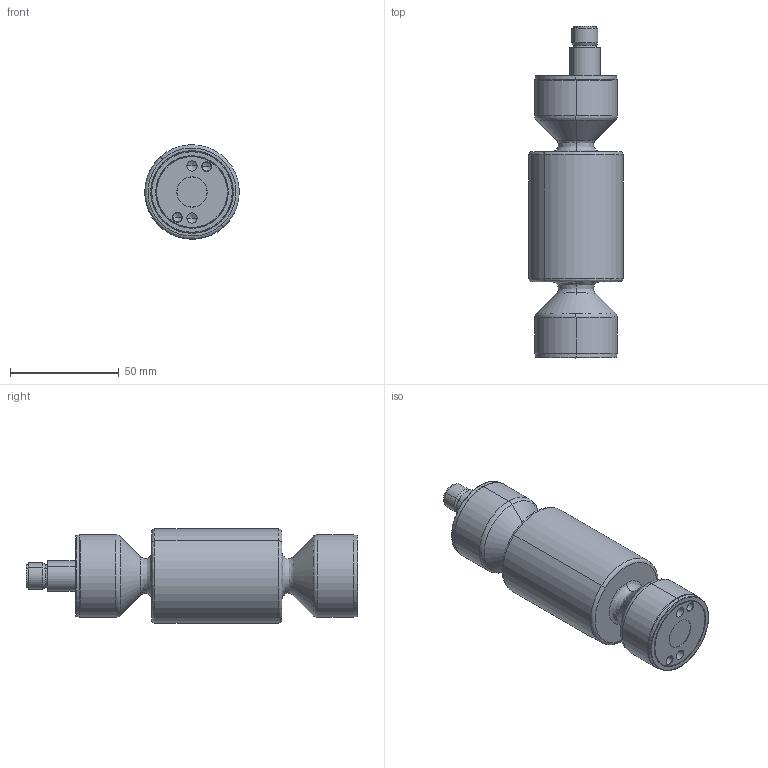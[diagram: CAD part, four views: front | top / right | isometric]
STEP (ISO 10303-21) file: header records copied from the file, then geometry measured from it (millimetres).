
FILE_DESCRIPTION((''),'2;1');
FILE_NAME('PW27AP_SW0001','2020-04-17T',('KURZM'),(''),'CREO PARAMETRIC BY PTC INC, 2018220','CREO PARAMETRIC BY PTC INC, 2018220','');
FILE_SCHEMA(('CONFIG_CONTROL_DESIGN'));
Length unit declared in the file: millimetre
Products named in the file (1): PW27AP_SW0001
Bounding box: 43.47 x 152.8 x 43.47 mm (x, y, z)
Volume: 149878.1 mm3; surface area: 23526.4 mm2
Topology: 1 solids, 2 shells, 181 faces, 419 edges, 236 vertices
Faces by surface type: bspline 181
Entity records: 9534 total; most frequent: CARTESIAN_POINT 5873, ORIENTED_EDGE 774, DIRECTION 638, EDGE_CURVE 387, AXIS2_PLACEMENT_3D 251, CIRCLE 251, VERTEX_POINT 236, EDGE_LOOP 209
